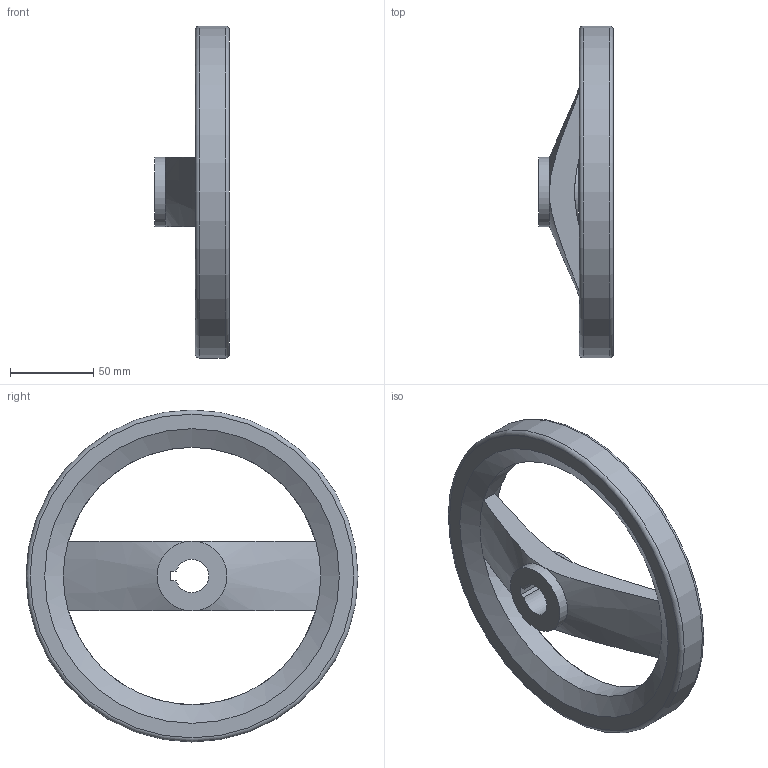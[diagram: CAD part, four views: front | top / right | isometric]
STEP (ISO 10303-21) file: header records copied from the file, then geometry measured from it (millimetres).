
FILE_DESCRIPTION( ( 'STEP AP203' ), '1' );
FILE_NAME( 'C:/Temp/Ganter_Step_05_03_2020/data/1_3/gn_324/gn_324_k/gn_324_k_a/Handwheel, matt black GN 324-200-K20-A.stp', '2020-03-05T10:33:00', ( 'License CC BY-ND 4.0' ), ( 'CADENAS' ), ' ', 'PARTsolutions', ' ' );
FILE_SCHEMA( ( 'CONFIG_CONTROL_DESIGN' ) );
Length unit declared in the file: millimetre
Products named in the file (1): _Handwheel, matt black GN 324-200-K20-A
Bounding box: 45 x 200 x 200 mm (x, y, z)
Volume: 326280.6 mm3; surface area: 62924.2 mm2
Topology: 1 solids, 1 shells, 22 faces, 52 edges, 30 vertices
Faces by surface type: plane 9, cone 6, cylinder 5, torus 2
Full cylindrical faces by diameter (mm): 42 x2, 155 x1, 200 x1
Entity records: 772 total; most frequent: CARTESIAN_POINT 251, DIRECTION 102, ORIENTED_EDGE 86, AXIS2_PLACEMENT_3D 44, EDGE_CURVE 43, EDGE_LOOP 34, VERTEX_POINT 29, FACE_OUTER_BOUND 28
